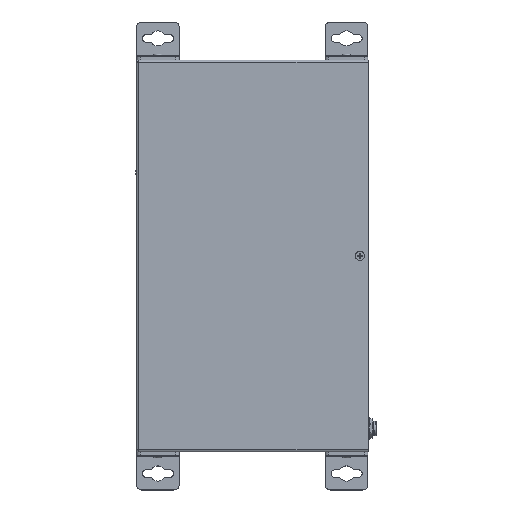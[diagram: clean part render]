
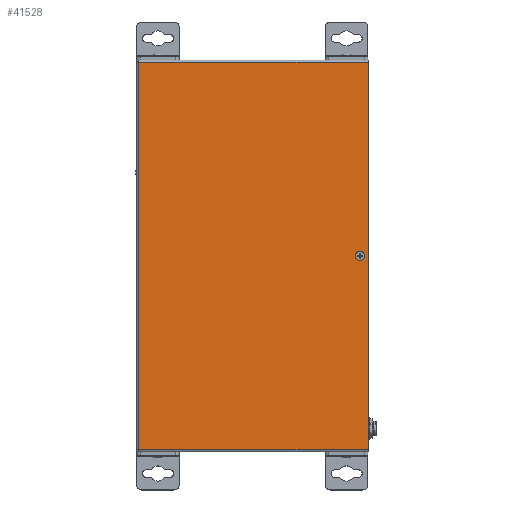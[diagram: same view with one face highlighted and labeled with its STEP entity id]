
A CAD part, top view. The second image highlights one B-rep face of the part: STEP entity #41528.
In plain terms, the highlighted planar face has unit normal (0, 0, 1) as drawn and (0, 0, -1) by its records, which use the part's own axes.
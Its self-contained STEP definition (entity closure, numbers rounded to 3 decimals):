
#34577=CARTESIAN_POINT('',(0.,60.,0.));
#34578=DIRECTION('',(0.,0.,1.));
#34579=DIRECTION('',(1.,0.,0.));
#34580=AXIS2_PLACEMENT_3D('',#34577,#34578,#34579);
#34585=CARTESIAN_POINT('',(0.,60.,0.));
#34586=DIRECTION('',(0.,0.,1.));
#34587=DIRECTION('',(-1.,0.,0.));
#34588=AXIS2_PLACEMENT_3D('',#34585,#34586,#34587);
#34619=DIRECTION('',(1.,0.,0.));
#34620=VECTOR('',#34619,217.6);
#34621=CARTESIAN_POINT('',(-108.8,-64.5,0.));
#34622=LINE('',#34621,#34620);
#34862=DIRECTION('',(0.,-1.,0.));
#34863=VECTOR('',#34862,129.2);
#34864=CARTESIAN_POINT('',(-108.8,64.7,0.));
#34865=LINE('',#34864,#34863);
#37342=DIRECTION('',(1.,0.,0.));
#37343=VECTOR('',#37342,217.6);
#37344=CARTESIAN_POINT('',(-108.8,64.7,0.));
#37345=LINE('',#37344,#37343);
#37385=DIRECTION('',(0.,1.,0.));
#37386=VECTOR('',#37385,129.2);
#37387=CARTESIAN_POINT('',(108.8,-64.5,0.));
#37388=LINE('',#37387,#37386);
#40469=CARTESIAN_POINT('',(-108.8,64.7,0.));
#40470=VERTEX_POINT('',#40469);
#40483=CARTESIAN_POINT('',(108.8,64.7,0.));
#40484=VERTEX_POINT('',#40483);
#40495=CARTESIAN_POINT('',(-108.8,-64.5,0.));
#40496=VERTEX_POINT('',#40495);
#40499=CARTESIAN_POINT('',(108.8,-64.5,0.));
#40500=VERTEX_POINT('',#40499);
#40587=CARTESIAN_POINT('',(2.55,60.,0.));
#40588=CARTESIAN_POINT('',(-2.55,60.,0.));
#40589=VERTEX_POINT('',#40587);
#40590=VERTEX_POINT('',#40588);
#41507=CARTESIAN_POINT('',(0.,0.,0.));
#41508=DIRECTION('',(0.,0.,1.));
#41509=DIRECTION('',(1.,0.,0.));
#41510=AXIS2_PLACEMENT_3D('',#41507,#41508,#41509);
#41511=PLANE('',#41510);
#41513=ORIENTED_EDGE('',*,*,#41512,.T.);
#41515=ORIENTED_EDGE('',*,*,#41514,.T.);
#41517=ORIENTED_EDGE('',*,*,#41516,.F.);
#41519=ORIENTED_EDGE('',*,*,#41518,.T.);
#41520=EDGE_LOOP('',(#41513,#41515,#41517,#41519));
#41521=FACE_OUTER_BOUND('',#41520,.F.);
#41523=ORIENTED_EDGE('',*,*,#41522,.F.);
#41525=ORIENTED_EDGE('',*,*,#41524,.F.);
#41526=EDGE_LOOP('',(#41523,#41525));
#41527=FACE_BOUND('',#41526,.F.);
#34581=CIRCLE('',#34580,2.55);
#34589=CIRCLE('',#34588,2.55);
#41512=EDGE_CURVE('',#40496,#40500,#34622,.T.);
#41514=EDGE_CURVE('',#40500,#40484,#37388,.T.);
#41516=EDGE_CURVE('',#40470,#40484,#37345,.T.);
#41518=EDGE_CURVE('',#40470,#40496,#34865,.T.);
#41522=EDGE_CURVE('',#40589,#40590,#34581,.T.);
#41524=EDGE_CURVE('',#40590,#40589,#34589,.T.);
#41528=ADVANCED_FACE('',(#41521,#41527),#41511,.F.);
